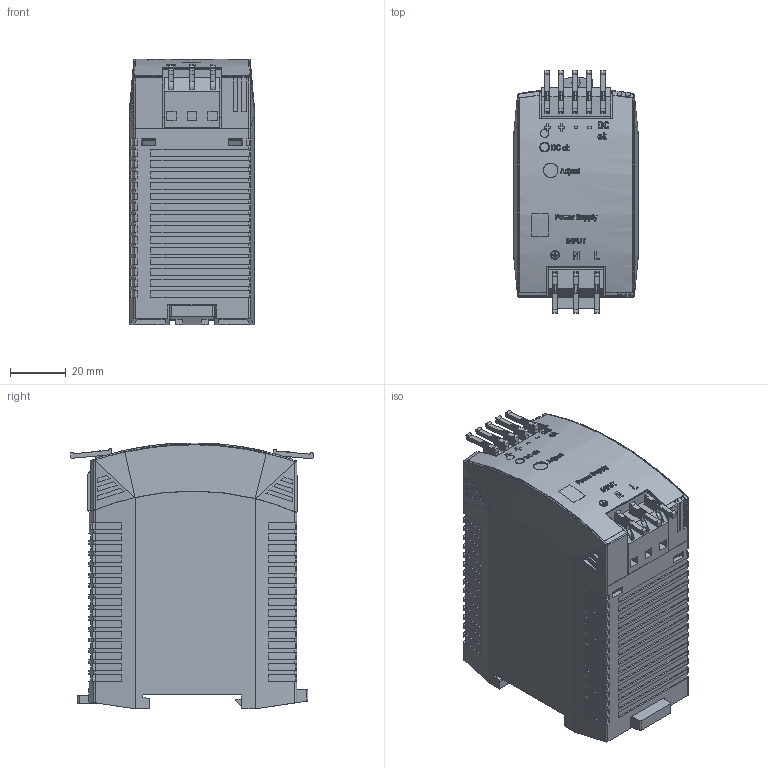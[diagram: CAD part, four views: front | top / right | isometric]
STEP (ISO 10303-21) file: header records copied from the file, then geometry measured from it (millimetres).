
FILE_DESCRIPTION((''),'2;1');
FILE_NAME('C:\Users\rahns\Desktop\Sylvia Info´s\Dateien für Vertrieb\ML50\100\md3_ml50_100.stp','2012-06-15T12:08:04',('rahns'),(''),'Autodesk Inventor 2009','Autodesk Inventor 2009','');
FILE_SCHEMA(('AUTOMOTIVE_DESIGN { 1 0 10303 214 1 1 1 1 }'));
Length unit declared in the file: millimetre
Products named in the file (7): 327; HOUSING BODY 322; HOUSING COVER 322; SLIDER 322; TERMINAL 3P; TERMINAL 5P; FRONTFOIL 327
Assembly tree (6 placements, depth 2):
  327
    HOUSING BODY 322
    HOUSING COVER 322
    SLIDER 322
    TERMINAL 3P
    TERMINAL 5P
    FRONTFOIL 327
Bounding box: 45 x 87.49 x 95.74 mm (x, y, z)
Volume: 291922.9 mm3; surface area: 52991.5 mm2
Topology: 11 solids, 11 shells, 1675 faces, 4593 edges, 3051 vertices
Faces by surface type: plane 1168, cylinder 254, bspline 246, cone 7
Full cylindrical faces by diameter (mm): 1.2 x8, 3 x2, 5.2 x1
Entity records: 128538 total; most frequent: CARTESIAN_POINT 86811, ORIENTED_EDGE 9164, DIRECTION 7365, EDGE_CURVE 4582, VECTOR 3215, LINE 3215, VERTEX_POINT 3051, AXIS2_PLACEMENT_3D 2075
